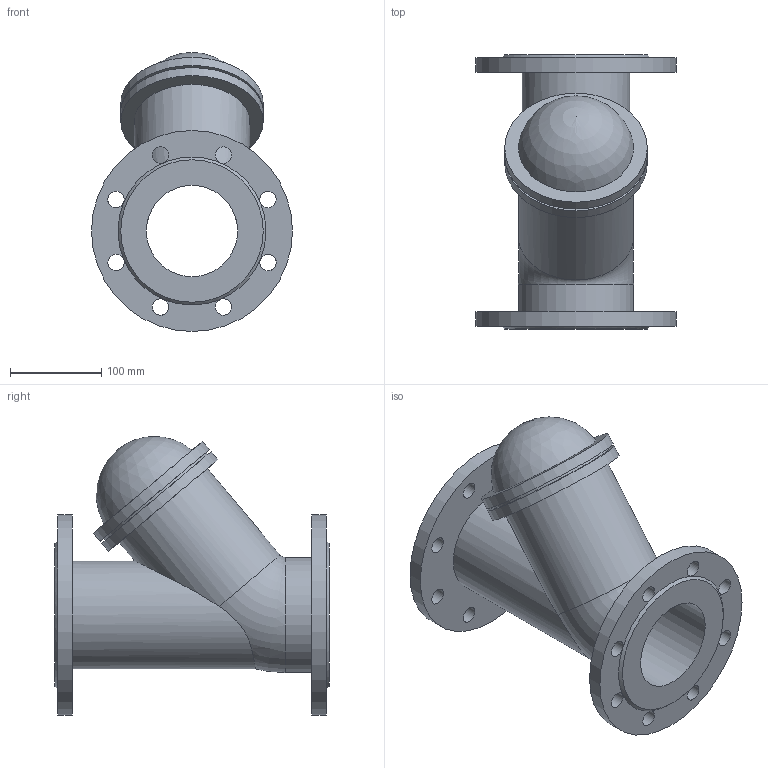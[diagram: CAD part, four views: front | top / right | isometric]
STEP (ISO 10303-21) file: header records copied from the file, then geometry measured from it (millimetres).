
FILE_DESCRIPTION(('STEP AP203'), '1');
FILE_NAME('Êëàïàí îáðàòíûé øàðîâîé ôëàíöåâûé 012F DN100', '', ('UNSPECIFIED'), ('UNSPECIFIED'), 'ASCON STEP Converter 1.6', 'ASCON Math Kernel', '');
FILE_SCHEMA(('CONFIG_CONTROL_DESIGN'));
Length unit declared in the file: millimetre
Bounding box: 220 x 300 x 305.42 mm (x, y, z)
Volume: 3144474.5 mm3; surface area: 445652.4 mm2
Topology: 1 solids, 1 shells, 44 faces, 129 edges, 82 vertices
Faces by surface type: cylinder 27, plane 12, torus 2, cone 2, sphere 1
Full cylindrical faces by diameter (mm): 18 x16, 100 x2, 118 x1, 126 x2, 146 x1, 156 x2, 220 x2
Entity records: 2201 total; most frequent: CARTESIAN_POINT 629, DIRECTION 264, ORIENTED_EDGE 194, AXIS2_PLACEMENT_3D 132, EDGE_LOOP 116, EDGE_CURVE 97, CIRCLE 87, VERTEX_POINT 81
